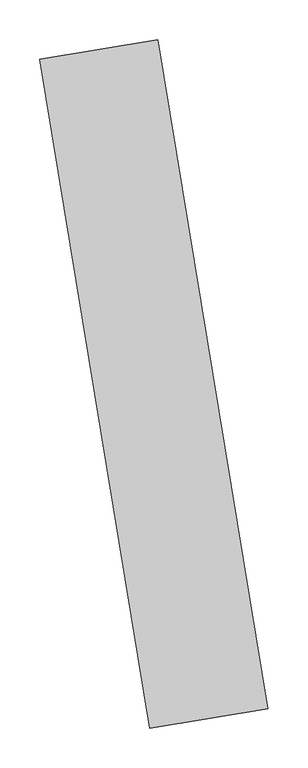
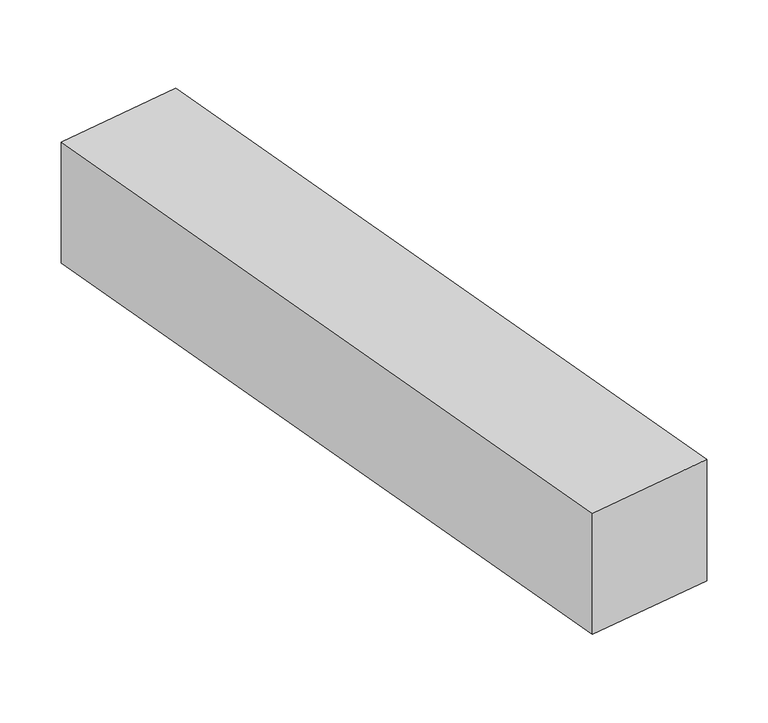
"""IFC4 building model written with IfcOpenShell, lengths in millimetres: proxy geometry, Брус 10 : Брус 2."""

from ifc_helpers import new_model, si_unit, frame, origin, place, context, project, spatial, polyline, outline, extrude, source, transform, mapped, element, save


def generic_models_3de3591b(model_context):
    return source(origin(), model_context, "Body", "SweptSolid", [
        extrude(outline(polyline([(7567.9704156, 11100.0), (7430.0450838, 11938.7351208), (7578.0571639, 11963.0748852), (7715.9824957, 11124.3397644), (7567.9704156, 11100.0)])), frame((0.0, 0.0, -5.0), z_axis=(0.0, 0.0, 1.0), x_axis=(1.0, 0.0, 0.0)), (0.0, 0.0, 1.0), 150.0),
    ])


if __name__ == "__main__":
    model = new_model("IFC4")
    model_context = context("Model", 3, world=origin())
    ifc_project = project(units=[si_unit("LENGTHUNIT", "METRE", prefix="MILLI")], contexts=[model_context])
    site = spatial("IfcSite", under=ifc_project)
    building = spatial("IfcBuilding", under=site)
    placement = place(None, origin())
    generic_models_shape = generic_models_3de3591b(model_context)
    element("IfcBuildingElementProxy", 1, Name="Брус 10 : Брус 2", ObjectType="Брус 10 : Брус 2", at=placement, inside=building, context=model_context, shape_type="MappedRepresentation", body=[
        mapped(generic_models_shape, transform((0.0, 0.0, 0.0), x_axis=(1.0, 0.0, 0.0), y_axis=(0.0, 1.0, 0.0), z_axis=(0.0, 0.0, 1.0))),
    ])
    save(model, "model.ifc")
